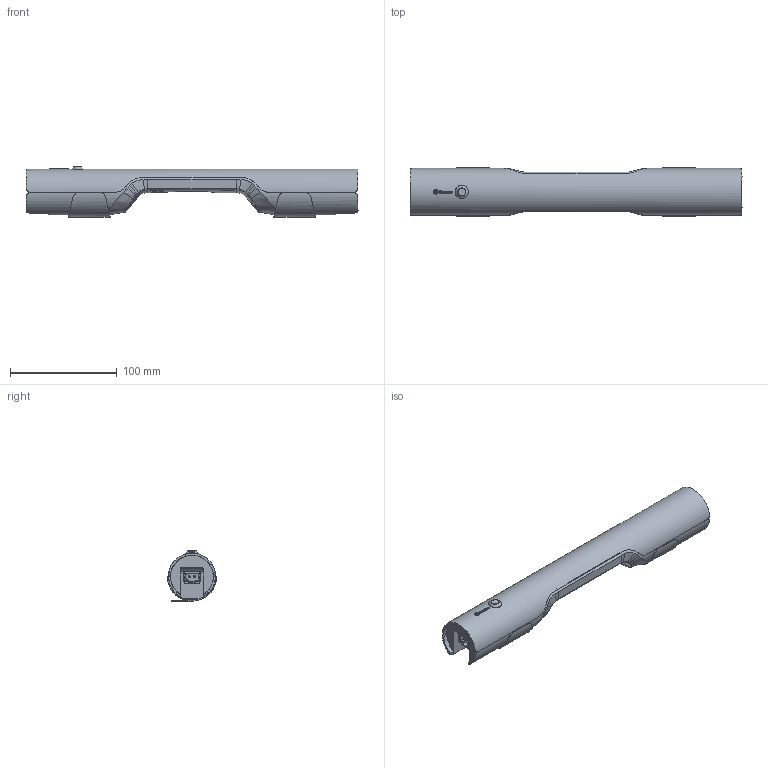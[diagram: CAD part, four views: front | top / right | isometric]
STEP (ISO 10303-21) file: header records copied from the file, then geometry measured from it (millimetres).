
FILE_DESCRIPTION(/* description */ ('Unknown'),/* implementation_level */ '2;1');
FILE_NAME(/* name */ '7L.4X.0.Y.2200',/* time_stamp */ '2019-11-04T09:58:46+01:00',/* author */ ('Unknown'),/* organization */ ('Unknown'),/* preprocessor_version */ 'ST-DEVELOPER v16.7',/* originating_system */ 'DEX',/* authorisation */ $);
FILE_SCHEMA (('AUTOMOTIVE_DESIGN {1 0 10303 214 3 1 1}'));
Products named in the file (1): 7L.4X.0.Y.2200-Pulsante Connettore - pelle x catalogo new
Bounding box: 310.57 x 46 x 47.03 mm (x, y, z)
Surface area: 77783.2 mm2 (no closed solid volume)
Topology: 0 solids, 37 shells, 1698 faces, 5259 edges, 3611 vertices
Faces by surface type: plane 1283, bspline 214, cylinder 187, cone 10, torus 2, sphere 2
Full cylindrical faces by diameter (mm): 1.75 x2, 2 x4, 3.3 x2, 4 x2, 4.2 x2, 4.263 x1, 10.3 x1, 10.8 x1, 12.3 x1, 13.2 x1
Entity records: 67295 total; most frequent: CARTESIAN_POINT 22358, ORIENTED_EDGE 9594, DIRECTION 6884, EDGE_CURVE 5223, VERTEX_POINT 3600, LINE 3216, VECTOR 3216, AXIS2_PLACEMENT_3D 1834
